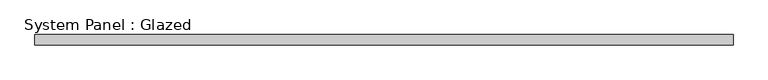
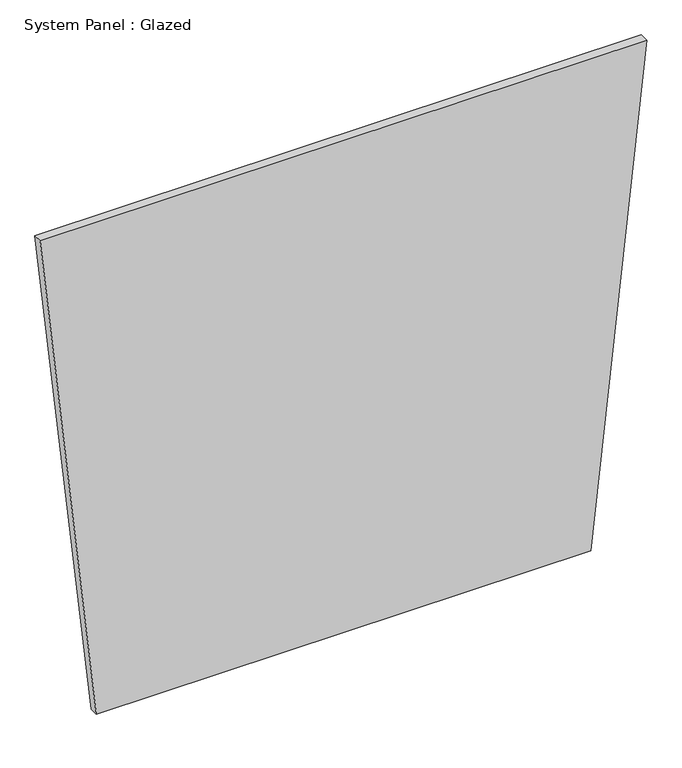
"""IFC4 building model written with IfcOpenShell, lengths in millimetres: plate geometry, System Panel : Glazed."""

from ifc_helpers import new_model, si_unit, frame, origin, place, context, project, spatial, polyline, outline, extrude, source, transform, mapped, element, save


def system_panel_glazed_fcd4964b(model_context):
    return source(origin(), model_context, "Body", "SweptSolid", [
        extrude(outline(polyline([(0.0, -684.5802087), (0.0, 684.5802087), (1441.3371788, 840.1596131), (1441.3371788, -840.1596131), (0.0, -684.5802087)])), frame((0.0, -49.5, 0.0), z_axis=(0.0, 1.0, 0.0), x_axis=(0.0, 0.0, 1.0)), (0.0, 0.0, 1.0), 25.0),
    ])


if __name__ == "__main__":
    model = new_model("IFC4")
    model_context = context("Model", 3, world=origin())
    ifc_project = project(units=[si_unit("LENGTHUNIT", "METRE", prefix="MILLI")], contexts=[model_context])
    site = spatial("IfcSite", under=ifc_project)
    building = spatial("IfcBuilding", under=site)
    placement = place(None, origin())
    system_panel_glazed_shape = system_panel_glazed_fcd4964b(model_context)
    element("IfcPlate", 1, ObjectType="System Panel : Glazed", at=placement, inside=building, context=model_context, shape_type="MappedRepresentation", body=[
        mapped(system_panel_glazed_shape, transform((0.0, 0.0, 0.0), x_axis=(1.0, 0.0, 0.0), y_axis=(0.0, 1.0, 0.0), z_axis=(0.0, 0.0, 1.0))),
    ])
    save(model, "model.ifc")
